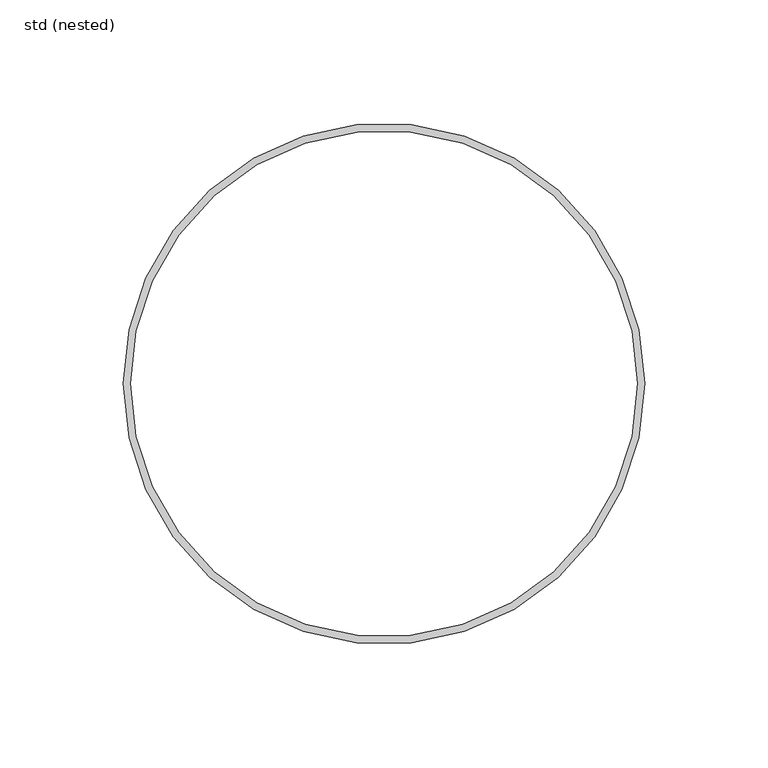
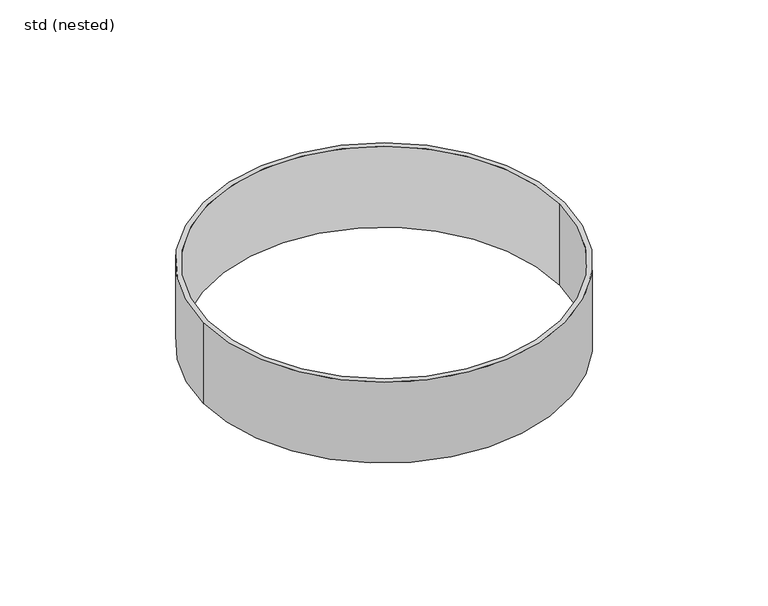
"""IFC4 building model written with IfcOpenShell, lengths in millimetres: pipe fitting geometry, ZZZ_do not use_PIF_ST_WPB_GM-X compound pipe clamp_ACO : std (nested)."""

from ifc_helpers import new_model, si_unit, point, frame, origin, origin_2d, place, context, project, spatial, circle_curve, trimmed, segment, composite_curve, outline, extrude, source, transform, mapped, element, save


def std_nested_d6aa968b(model_context):
    return source(origin(), model_context, "Body", "SweptSolid", [
        extrude(outline(composite_curve([segment(trimmed(circle_curve(origin_2d(), 105.5), [point((105.5, 0.0))], [point((-105.5, 0.0))], False, "CARTESIAN"), True, "CONTINUOUS"), segment(trimmed(circle_curve(origin_2d(), 105.5), [point((-105.5, 0.0))], [point((105.5, 0.0))], False, "CARTESIAN"), True, "CONTINUOUS")], self_intersect=False), holes=[composite_curve([segment(trimmed(circle_curve(origin_2d(), 102.5), [point((102.5, 0.0))], [point((-102.5, 0.0))], True, "CARTESIAN"), True, "CONTINUOUS"), segment(trimmed(circle_curve(origin_2d(), 102.5), [point((-102.5, 0.0))], [point((102.5, 0.0))], True, "CARTESIAN"), True, "CONTINUOUS")], self_intersect=False)]), frame((0.0, 0.0, -37.5), z_axis=(0.0, 0.0, 1.0), x_axis=(1.0, 0.0, 0.0)), (0.0, 0.0, 1.0), 50.0),
    ])


if __name__ == "__main__":
    model = new_model("IFC4")
    model_context = context("Model", 3, world=origin())
    ifc_project = project(units=[si_unit("LENGTHUNIT", "METRE", prefix="MILLI")], contexts=[model_context])
    site = spatial("IfcSite", under=ifc_project)
    building = spatial("IfcBuilding", under=site)
    placement = place(None, origin())
    std_nested_shape = std_nested_d6aa968b(model_context)
    element("IfcPipeFitting", 1, ObjectType="ZZZ_do not use_PIF_ST_WPB_GM-X compound pipe clamp_ACO : std (nested)", at=placement, inside=building, context=model_context, shape_type="MappedRepresentation", body=[
        mapped(std_nested_shape, transform((0.0, 0.0, 0.0), x_axis=(1.0, 0.0, 0.0), y_axis=(0.0, 1.0, 0.0), z_axis=(0.0, 0.0, 1.0))),
    ])
    save(model, "model.ifc")
